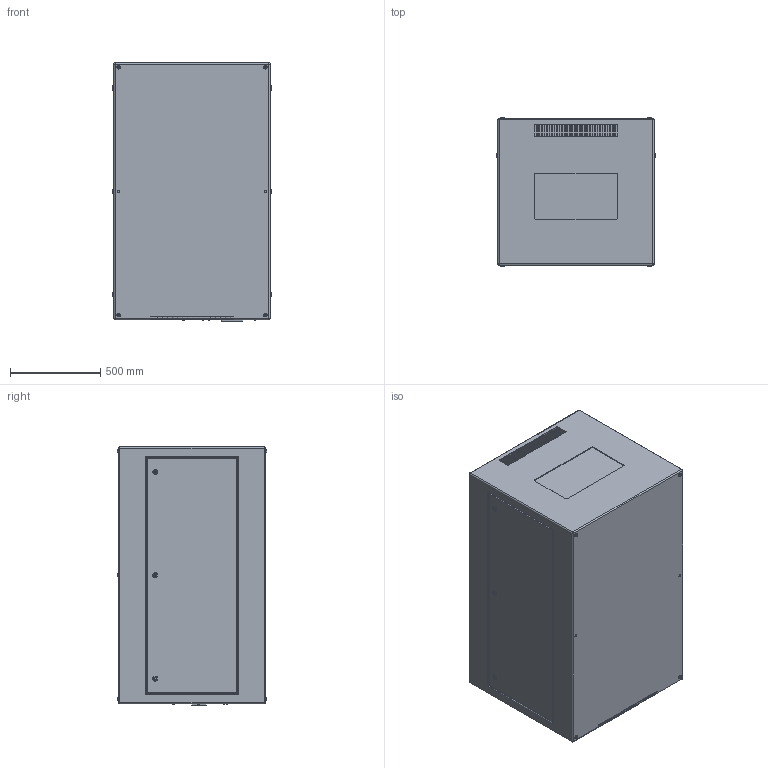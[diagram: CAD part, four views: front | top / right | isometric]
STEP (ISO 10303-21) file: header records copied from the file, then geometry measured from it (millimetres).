
FILE_DESCRIPTION (( 'STEP AP214' ), '1' );
FILE_NAME ('Zen 57.305.L R11 Landscape Hush Enclosure.STEP', '2021-08-13T19:07:27', ( '' ), ( '' ), 'SwSTEP 2.0', 'SolidWorks 2020', '' );
FILE_SCHEMA (( 'AUTOMOTIVE_DESIGN' ));
Length unit declared in the file: inch
Products named in the file (1): Zen 57.305.L R11 Landscape Hush Enclosure
Bounding box: 876.3 x 827.53 x 1430.02 mm (x, y, z)
Volume: 996271141.2 mm3; surface area: 6741474.4 mm2
Topology: 1 solids, 1 shells, 1125 faces, 2838 edges, 1746 vertices
Faces by surface type: plane 515, cylinder 484, sphere 74, torus 52
Entity records: 36313 total; most frequent: DIRECTION 6040, CARTESIAN_POINT 5684, ORIENTED_EDGE 5528, EDGE_CURVE 2764, AXIS2_PLACEMENT_3D 2166, VERTEX_POINT 1746, LINE 1708, VECTOR 1708
